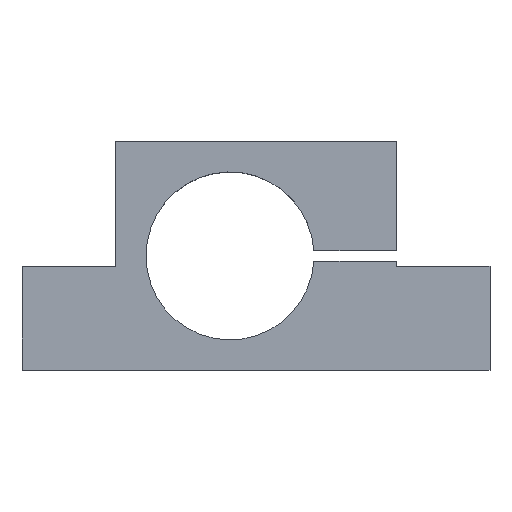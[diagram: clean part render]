
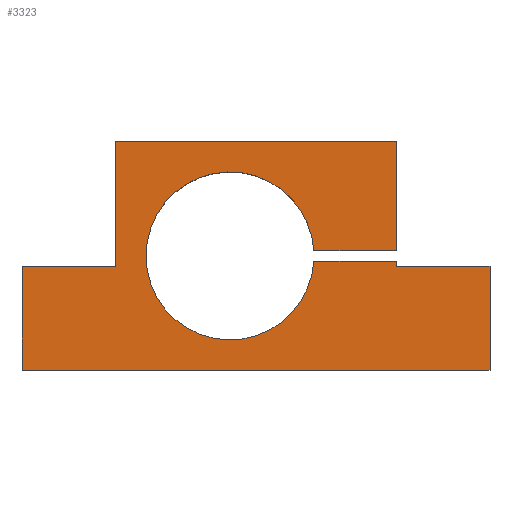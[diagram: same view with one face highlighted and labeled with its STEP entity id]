
A CAD part, top view. The second image highlights one B-rep face of the part: STEP entity #3323.
In plain terms, the highlighted planar face has unit normal (0, 0, 1).
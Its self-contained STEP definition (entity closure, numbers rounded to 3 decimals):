
#40=CIRCLE('',#3455,16.15);
#154=PLANE('',#3461);
#330=FACE_OUTER_BOUND('',#528,.T.);
#528=EDGE_LOOP('',(#3059,#3060,#3061,#3062,#3063,#3064,#3065,#3066,#3067,
#3068,#3069,#3070));
#799=LINE('',#5872,#1108);
#819=LINE('',#5953,#1128);
#821=LINE('',#5957,#1130);
#823=LINE('',#5960,#1132);
#824=LINE('',#5964,#1133);
#826=LINE('',#5968,#1135);
#829=LINE('',#5976,#1138);
#831=LINE('',#5980,#1140);
#833=LINE('',#5984,#1142);
#835=LINE('',#5988,#1144);
#837=LINE('',#5991,#1146);
#1108=VECTOR('',#3884,10.);
#1128=VECTOR('',#3964,10.);
#1130=VECTOR('',#3968,10.);
#1132=VECTOR('',#3972,10.);
#1133=VECTOR('',#3977,10.);
#1135=VECTOR('',#3981,10.);
#1138=VECTOR('',#3990,10.);
#1140=VECTOR('',#3994,10.);
#1142=VECTOR('',#3998,10.);
#1144=VECTOR('',#4002,10.);
#1146=VECTOR('',#4006,10.);
#1584=VERTEX_POINT('',#5869);
#1585=VERTEX_POINT('',#5871);
#1615=VERTEX_POINT('',#5950);
#1616=VERTEX_POINT('',#5952);
#1617=VERTEX_POINT('',#5956);
#1618=VERTEX_POINT('',#5963);
#1619=VERTEX_POINT('',#5967);
#1620=VERTEX_POINT('',#5971);
#1621=VERTEX_POINT('',#5975);
#1622=VERTEX_POINT('',#5979);
#1623=VERTEX_POINT('',#5983);
#1624=VERTEX_POINT('',#5987);
#2049=EDGE_CURVE('',#1585,#1584,#799,.T.);
#2087=EDGE_CURVE('',#1616,#1615,#819,.T.);
#2089=EDGE_CURVE('',#1617,#1616,#821,.T.);
#2091=EDGE_CURVE('',#1584,#1617,#823,.T.);
#2092=EDGE_CURVE('',#1618,#1585,#824,.T.);
#2094=EDGE_CURVE('',#1619,#1618,#826,.T.);
#2096=EDGE_CURVE('',#1620,#1619,#40,.T.);
#2098=EDGE_CURVE('',#1621,#1620,#829,.T.);
#2100=EDGE_CURVE('',#1622,#1621,#831,.T.);
#2102=EDGE_CURVE('',#1623,#1622,#833,.T.);
#2104=EDGE_CURVE('',#1624,#1623,#835,.T.);
#2106=EDGE_CURVE('',#1615,#1624,#837,.T.);
#3059=ORIENTED_EDGE('',*,*,#2106,.T.);
#3060=ORIENTED_EDGE('',*,*,#2104,.T.);
#3061=ORIENTED_EDGE('',*,*,#2102,.T.);
#3062=ORIENTED_EDGE('',*,*,#2100,.T.);
#3063=ORIENTED_EDGE('',*,*,#2098,.T.);
#3064=ORIENTED_EDGE('',*,*,#2096,.T.);
#3065=ORIENTED_EDGE('',*,*,#2094,.T.);
#3066=ORIENTED_EDGE('',*,*,#2092,.T.);
#3067=ORIENTED_EDGE('',*,*,#2049,.T.);
#3068=ORIENTED_EDGE('',*,*,#2091,.T.);
#3069=ORIENTED_EDGE('',*,*,#2089,.T.);
#3070=ORIENTED_EDGE('',*,*,#2087,.T.);
#3323=ADVANCED_FACE('',(#330),#154,.T.);
#3455=AXIS2_PLACEMENT_3D('',#5972,#3985,#3986);
#3461=AXIS2_PLACEMENT_3D('',#5992,#4007,#4008);
#3884=DIRECTION('',(-1.,0.,0.));
#3964=DIRECTION('',(0.,-1.,0.));
#3968=DIRECTION('',(-1.,0.,0.));
#3972=DIRECTION('',(0.,-1.,0.));
#3977=DIRECTION('',(0.,1.,0.));
#3981=DIRECTION('',(1.,0.,0.));
#3985=DIRECTION('center_axis',(0.,0.,-1.));
#3986=DIRECTION('ref_axis',(-0.998,-0.062,0.));
#3990=DIRECTION('',(-1.,0.,0.));
#3994=DIRECTION('',(0.,1.,0.));
#3998=DIRECTION('',(-1.,0.,0.));
#4002=DIRECTION('',(0.,1.,0.));
#4006=DIRECTION('',(1.,0.,0.));
#4007=DIRECTION('center_axis',(0.,0.,1.));
#4008=DIRECTION('ref_axis',(1.,0.,0.));
#5869=CARTESIAN_POINT('',(18.,44.,10.));
#5871=CARTESIAN_POINT('',(72.,44.,10.));
#5872=CARTESIAN_POINT('',(72.,44.,10.));
#5950=CARTESIAN_POINT('',(0.,0.,10.));
#5952=CARTESIAN_POINT('',(0.,20.,10.));
#5953=CARTESIAN_POINT('',(0.,20.,10.));
#5956=CARTESIAN_POINT('',(18.,20.,10.));
#5957=CARTESIAN_POINT('',(18.,20.,10.));
#5960=CARTESIAN_POINT('',(18.,44.,10.));
#5963=CARTESIAN_POINT('',(72.,23.,10.));
#5964=CARTESIAN_POINT('',(72.,23.,10.));
#5967=CARTESIAN_POINT('',(56.119,23.,10.));
#5968=CARTESIAN_POINT('',(56.119,23.,10.));
#5971=CARTESIAN_POINT('',(56.119,21.,10.));
#5972=CARTESIAN_POINT('Origin',(40.,22.,10.));
#5975=CARTESIAN_POINT('',(72.,21.,10.));
#5976=CARTESIAN_POINT('',(72.,21.,10.));
#5979=CARTESIAN_POINT('',(72.,20.,10.));
#5980=CARTESIAN_POINT('',(72.,20.,10.));
#5983=CARTESIAN_POINT('',(90.,20.,10.));
#5984=CARTESIAN_POINT('',(90.,20.,10.));
#5987=CARTESIAN_POINT('',(90.,0.,10.));
#5988=CARTESIAN_POINT('',(90.,0.,10.));
#5991=CARTESIAN_POINT('',(0.,0.,10.));
#5992=CARTESIAN_POINT('Origin',(45.414,19.68,10.));
